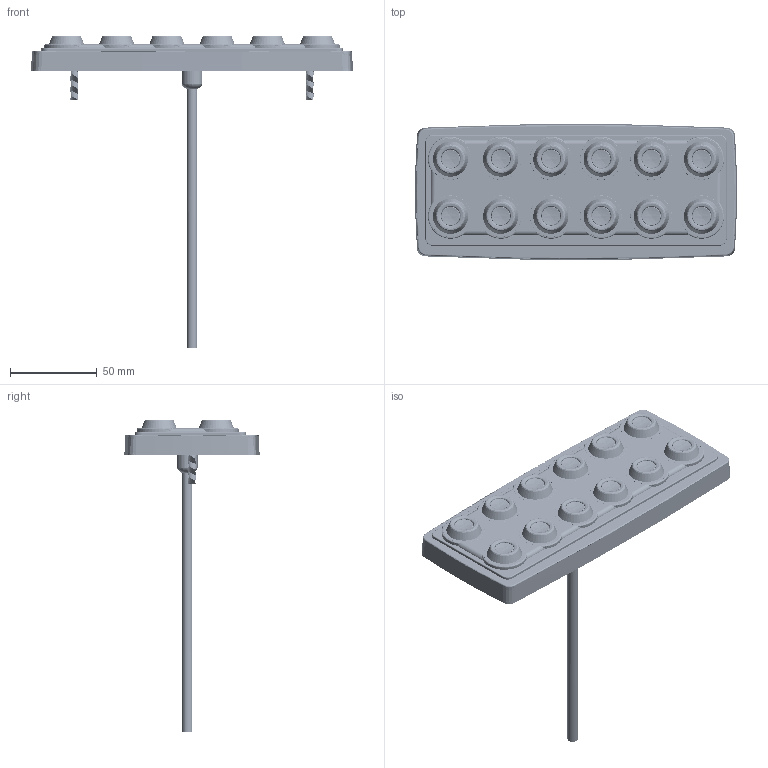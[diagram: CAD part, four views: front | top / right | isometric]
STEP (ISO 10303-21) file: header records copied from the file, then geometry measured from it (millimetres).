
FILE_DESCRIPTION(('CATIA V5 STEP Exchange'),'2;1');
FILE_NAME('I:\Dept\BEG_NA\Restricted\MSD\01 Project Folders\09 MSD-NA Hardware Development\02 Hardware\12 CAN Keypad\12 CAD\CK-M12.stp','2018-05-15T20:30:31+00:00',('none'),('none'),'CATIA Version 5 Release 19 SP 9 (IN-10)','CATIA V5 STEP AP214','none');
FILE_SCHEMA(('AUTOMOTIVE_DESIGN { 1 0 10303 214 1 1 1 1 }'));
Products named in the file (1): PKU-2600
Bounding box: 186.05 x 78.19 x 180.73 mm (x, y, z)
Volume: 5391.8 mm3; surface area: 104479.1 mm2
Topology: 1 solids, 2187 shells, 2195 faces, 12957 edges, 12894 vertices
Faces by surface type: plane 788, bspline 679, revolution 364, cylinder 364
Entity records: 271156 total; most frequent: CARTESIAN_POINT 177238, ORIENTED_EDGE 12918, EDGE_CURVE 12901, VERTEX_POINT 12894, DIRECTION 8690, B_SPLINE_CURVE_WITH_KNOTS 4613, VECTOR 4429, LINE 4429
